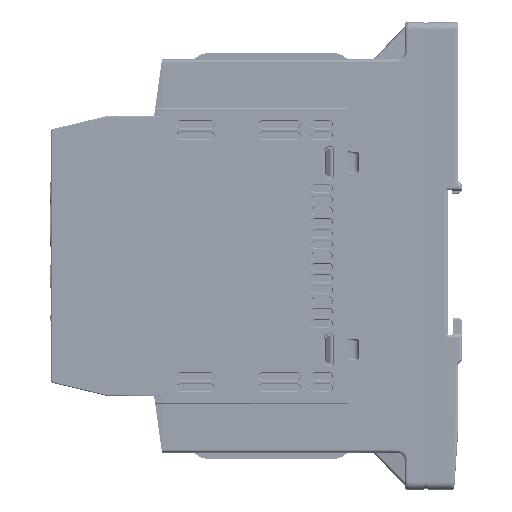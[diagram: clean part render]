
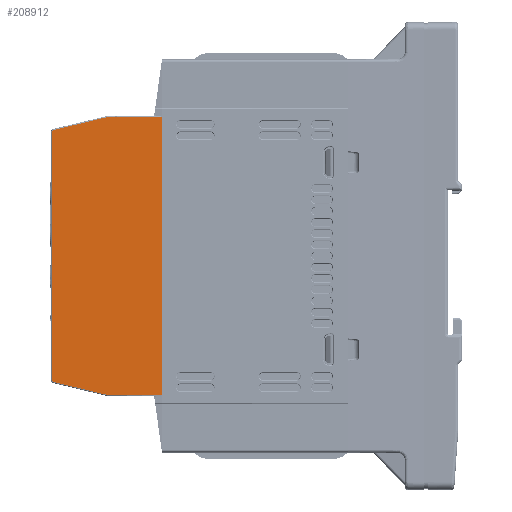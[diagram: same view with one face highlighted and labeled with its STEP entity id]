
A CAD part, front view. The second image highlights one B-rep face of the part: STEP entity #208912.
In plain terms, the highlighted planar face has unit normal (-0.009, -1, 0).
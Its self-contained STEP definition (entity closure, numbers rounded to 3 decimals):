
#160813=CARTESIAN_POINT('',(-18.,1.,37.199));
#160814=VERTEX_POINT('',#160813);
#160840=CARTESIAN_POINT('',(-18.,1.,-37.199));
#160841=VERTEX_POINT('',#160840);
#160842=CARTESIAN_POINT('',(-18.,1.,37.199));
#160843=DIRECTION('',(0.0,0.0,-1.0));
#160844=VECTOR('',#160843,74.399);
#160845=LINE('',#160842,#160844);
#160846=EDGE_CURVE('',#160814,#160841,#160845,.T.);
#197692=CARTESIAN_POINT('',(-18.008,1.,-37.224));
#197693=VERTEX_POINT('',#197692);
#197701=CARTESIAN_POINT('',(-32.538,1.127,-37.098));
#197702=VERTEX_POINT('',#197701);
#197703=CARTESIAN_POINT('',(-18.008,1.,-37.224));
#197704=DIRECTION('',(-1.,0.009,0.009));
#197705=VECTOR('',#197704,14.531);
#197706=LINE('',#197703,#197705);
#197707=EDGE_CURVE('',#197693,#197702,#197706,.T.);
#197746=CARTESIAN_POINT('',(-46.766,1.251,-33.682));
#197747=VERTEX_POINT('',#197746);
#197748=CARTESIAN_POINT('',(-46.766,1.251,-33.682));
#197749=DIRECTION('',(0.972,-0.008,-0.233));
#197750=VECTOR('',#197749,14.633);
#197751=LINE('',#197748,#197750);
#197752=EDGE_CURVE('',#197747,#197702,#197751,.T.);
#197817=CARTESIAN_POINT('',(-47.303,1.256,-33.001));
#197818=VERTEX_POINT('',#197817);
#197828=CARTESIAN_POINT('',(-46.603,1.25,-33.001));
#197829=DIRECTION('',(-0.009,-1.,0.));
#197830=DIRECTION('',(-1.,0.009,0.));
#197831=AXIS2_PLACEMENT_3D('',#197828,#197829,#197830);
#197832=ELLIPSE('',#197831,0.7,0.7);
#197833=EDGE_CURVE('',#197818,#197747,#197832,.T.);
#197843=CARTESIAN_POINT('',(-47.303,1.256,33.001));
#197844=VERTEX_POINT('',#197843);
#197845=CARTESIAN_POINT('',(-47.303,1.256,33.001));
#197846=DIRECTION('',(0.0,0.0,-1.0));
#197847=VECTOR('',#197846,66.002);
#197848=LINE('',#197845,#197847);
#197849=EDGE_CURVE('',#197844,#197818,#197848,.T.);
#197915=CARTESIAN_POINT('',(-46.766,1.251,33.682));
#197916=VERTEX_POINT('',#197915);
#197917=CARTESIAN_POINT('',(-46.603,1.25,33.001));
#197918=DIRECTION('',(0.009,1.,0.));
#197919=DIRECTION('',(-1.,0.009,0.));
#197920=AXIS2_PLACEMENT_3D('',#197917,#197918,#197919);
#197921=ELLIPSE('',#197920,0.7,0.7);
#197922=EDGE_CURVE('',#197844,#197916,#197921,.T.);
#197942=CARTESIAN_POINT('',(-32.538,1.127,37.098));
#197943=VERTEX_POINT('',#197942);
#197944=CARTESIAN_POINT('',(-46.766,1.251,33.682));
#197945=DIRECTION('',(0.972,-0.008,0.233));
#197946=VECTOR('',#197945,14.633);
#197947=LINE('',#197944,#197946);
#197948=EDGE_CURVE('',#197916,#197943,#197947,.T.);
#197989=CARTESIAN_POINT('',(-18.008,1.,37.224));
#197990=VERTEX_POINT('',#197989);
#197991=CARTESIAN_POINT('',(-18.008,1.,37.224));
#197992=DIRECTION('',(-1.,0.009,-0.009));
#197993=VECTOR('',#197992,14.531);
#197994=LINE('',#197991,#197993);
#197995=EDGE_CURVE('',#197990,#197943,#197994,.T.);
#208864=CARTESIAN_POINT('',(-18.,1.,-37.199));
#208865=CARTESIAN_POINT('',(-18.,1.,-37.2));
#208866=CARTESIAN_POINT('',(-18.,1.,-37.2));
#208867=CARTESIAN_POINT('',(-18.,1.,-37.206));
#208868=CARTESIAN_POINT('',(-18.001,1.,-37.21));
#208869=CARTESIAN_POINT('',(-18.004,1.,-37.218));
#208870=CARTESIAN_POINT('',(-18.005,1.,-37.221));
#208871=CARTESIAN_POINT('',(-18.008,1.,-37.224));
#208872=CARTESIAN_POINT('',(-18.008,1.,-37.224));
#208873=CARTESIAN_POINT('',(-18.008,1.,-37.224));
#208874=B_SPLINE_CURVE_WITH_KNOTS('',3,(#208864,#208865,#208866,#208867,#208868,#208869,#208870,#208871,#208872,#208873),.UNSPECIFIED.,.F.,.U.,(4,2,2,2,4),(0.0,0.001,0.016,0.027,0.027),.UNSPECIFIED.);
#208875=EDGE_CURVE('',#160841,#197693,#208874,.T.);
#208883=CARTESIAN_POINT('',(-34.642,1.145,34.708));
#208884=DIRECTION('',(0.009,1.,0.));
#208885=DIRECTION('',(0.0,0.0,-1.0));
#208886=AXIS2_PLACEMENT_3D('',#208883,#208884,#208885);
#208887=PLANE('',#208886);
#208888=ORIENTED_EDGE('',*,*,#197948,.F.);
#208889=ORIENTED_EDGE('',*,*,#197922,.F.);
#208890=ORIENTED_EDGE('',*,*,#197849,.T.);
#208891=ORIENTED_EDGE('',*,*,#197833,.T.);
#208892=ORIENTED_EDGE('',*,*,#197752,.T.);
#208893=ORIENTED_EDGE('',*,*,#197707,.F.);
#208894=ORIENTED_EDGE('',*,*,#208875,.F.);
#208895=ORIENTED_EDGE('',*,*,#160846,.F.);
#208896=CARTESIAN_POINT('',(-18.,1.,37.199));
#208897=CARTESIAN_POINT('',(-18.,1.,37.2));
#208898=CARTESIAN_POINT('',(-18.,1.,37.2));
#208899=CARTESIAN_POINT('',(-18.,1.,37.206));
#208900=CARTESIAN_POINT('',(-18.001,1.,37.21));
#208901=CARTESIAN_POINT('',(-18.004,1.,37.218));
#208902=CARTESIAN_POINT('',(-18.005,1.,37.221));
#208903=CARTESIAN_POINT('',(-18.008,1.,37.224));
#208904=CARTESIAN_POINT('',(-18.008,1.,37.224));
#208905=CARTESIAN_POINT('',(-18.008,1.,37.224));
#208906=B_SPLINE_CURVE_WITH_KNOTS('',3,(#208896,#208897,#208898,#208899,#208900,#208901,#208902,#208903,#208904,#208905),.UNSPECIFIED.,.F.,.U.,(4,2,2,2,4),(0.0,0.001,0.016,0.027,0.027),.UNSPECIFIED.);
#208907=EDGE_CURVE('',#160814,#197990,#208906,.T.);
#208908=ORIENTED_EDGE('',*,*,#208907,.T.);
#208909=ORIENTED_EDGE('',*,*,#197995,.T.);
#208910=EDGE_LOOP('',(#208888,#208889,#208890,#208891,#208892,#208893,#208894,#208895,#208908,#208909));
#208911=FACE_OUTER_BOUND('',#208910,.T.);
#208912=ADVANCED_FACE('',(#208911),#208887,.F.);
